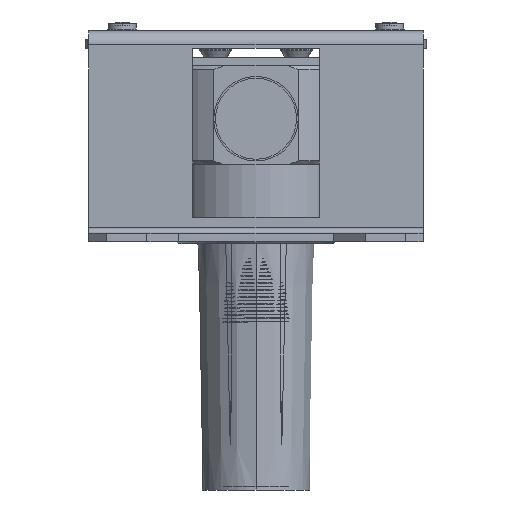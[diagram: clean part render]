
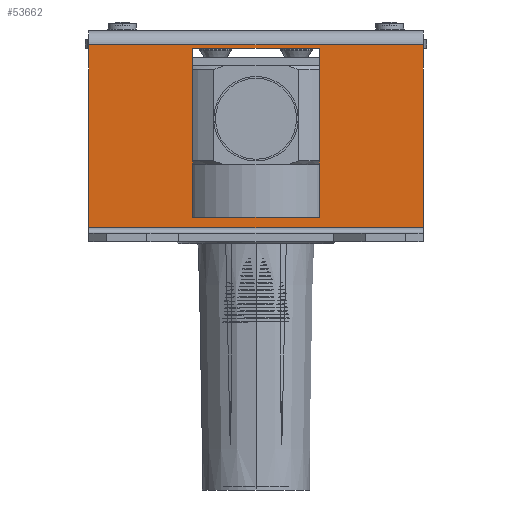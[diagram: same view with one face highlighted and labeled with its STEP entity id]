
A CAD part, front view. The second image highlights one B-rep face of the part: STEP entity #53662.
In plain terms, the highlighted planar face has unit normal (0, -1, 0) as drawn and (-1, 0, 0) by its records, which use the part's own axes.
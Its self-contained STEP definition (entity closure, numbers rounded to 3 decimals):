
#52114=DIRECTION('',(0.,0.,-1.));
#52115=VECTOR('',#52114,95.);
#52116=CARTESIAN_POINT('',(73.,56.,47.5));
#52117=LINE('',#52116,#52115);
#52153=DIRECTION('',(0.,1.,0.));
#52154=VECTOR('',#52153,52.);
#52155=CARTESIAN_POINT('',(73.,4.,47.5));
#52156=LINE('',#52155,#52154);
#52412=DIRECTION('',(0.,0.,1.));
#52413=VECTOR('',#52412,95.);
#52414=CARTESIAN_POINT('',(73.,4.,-47.5));
#52415=LINE('',#52414,#52413);
#52416=DIRECTION('',(0.,1.,0.));
#52417=VECTOR('',#52416,52.);
#52418=CARTESIAN_POINT('',(73.,4.,-47.5));
#52419=LINE('',#52418,#52417);
#52424=DIRECTION('',(0.,1.,0.));
#52425=VECTOR('',#52424,48.);
#52426=CARTESIAN_POINT('',(73.,7.,-18.));
#52427=LINE('',#52426,#52425);
#52432=DIRECTION('',(0.,0.,-1.));
#52433=VECTOR('',#52432,36.);
#52434=CARTESIAN_POINT('',(73.,7.,18.));
#52435=LINE('',#52434,#52433);
#52440=DIRECTION('',(0.,-1.,0.));
#52441=VECTOR('',#52440,48.);
#52442=CARTESIAN_POINT('',(73.,55.,18.));
#52443=LINE('',#52442,#52441);
#52448=DIRECTION('',(0.,0.,1.));
#52449=VECTOR('',#52448,36.);
#52450=CARTESIAN_POINT('',(73.,55.,-18.));
#52451=LINE('',#52450,#52449);
#52844=CARTESIAN_POINT('',(73.,56.,-47.5));
#52845=VERTEX_POINT('',#52844);
#52846=CARTESIAN_POINT('',(73.,4.,-47.5));
#52847=VERTEX_POINT('',#52846);
#52970=CARTESIAN_POINT('',(73.,4.,47.5));
#52971=VERTEX_POINT('',#52970);
#52972=CARTESIAN_POINT('',(73.,56.,47.5));
#52973=VERTEX_POINT('',#52972);
#53082=CARTESIAN_POINT('',(73.,7.,-18.));
#53083=CARTESIAN_POINT('',(73.,55.,-18.));
#53084=VERTEX_POINT('',#53082);
#53085=VERTEX_POINT('',#53083);
#53086=CARTESIAN_POINT('',(73.,7.,18.));
#53087=VERTEX_POINT('',#53086);
#53088=CARTESIAN_POINT('',(73.,55.,18.));
#53089=VERTEX_POINT('',#53088);
#53641=CARTESIAN_POINT('',(73.,60.,-47.5));
#53642=DIRECTION('',(-1.,0.,0.));
#53643=DIRECTION('',(0.,-1.,0.));
#53644=AXIS2_PLACEMENT_3D('',#53641,#53642,#53643);
#53645=PLANE('',#53644);
#53646=ORIENTED_EDGE('',*,*,#53635,.F.);
#53647=ORIENTED_EDGE('',*,*,#53335,.T.);
#53648=ORIENTED_EDGE('',*,*,#53364,.F.);
#53649=ORIENTED_EDGE('',*,*,#53390,.F.);
#53650=EDGE_LOOP('',(#53646,#53647,#53648,#53649));
#53651=FACE_OUTER_BOUND('',#53650,.F.);
#53653=ORIENTED_EDGE('',*,*,#53652,.F.);
#53655=ORIENTED_EDGE('',*,*,#53654,.F.);
#53657=ORIENTED_EDGE('',*,*,#53656,.F.);
#53659=ORIENTED_EDGE('',*,*,#53658,.F.);
#53660=EDGE_LOOP('',(#53653,#53655,#53657,#53659));
#53661=FACE_BOUND('',#53660,.F.);
#53335=EDGE_CURVE('',#52847,#52845,#52419,.T.);
#53364=EDGE_CURVE('',#52973,#52845,#52117,.T.);
#53390=EDGE_CURVE('',#52971,#52973,#52156,.T.);
#53635=EDGE_CURVE('',#52847,#52971,#52415,.T.);
#53652=EDGE_CURVE('',#53084,#53085,#52427,.T.);
#53654=EDGE_CURVE('',#53087,#53084,#52435,.T.);
#53656=EDGE_CURVE('',#53089,#53087,#52443,.T.);
#53658=EDGE_CURVE('',#53085,#53089,#52451,.T.);
#53662=ADVANCED_FACE('',(#53651,#53661),#53645,.T.);
